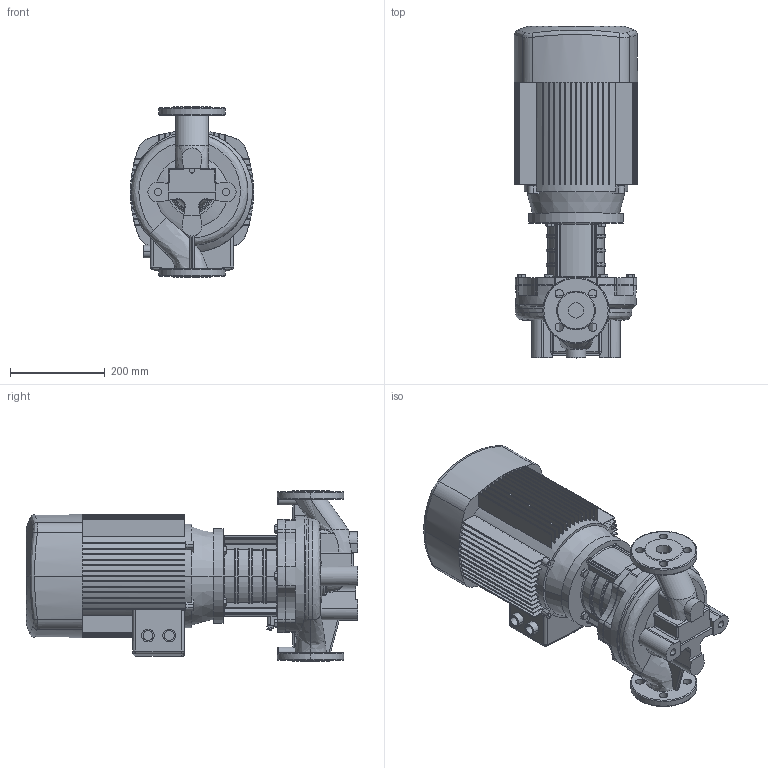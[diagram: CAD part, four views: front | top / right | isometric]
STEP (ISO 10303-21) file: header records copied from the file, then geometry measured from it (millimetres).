
FILE_DESCRIPTION (( 'STEP AP203' ), '1' );
FILE_NAME ('TD32-50G／2.STEP', '2026-09-07T01:49:31', ( '' ), ( '' ), 'SwSTEP 2.0', 'SolidWorks 2020', '' );
FILE_SCHEMA (( 'CONFIG_CONTROL_DESIGN' ));
Products named in the file (1): TD32-50Gㄞ2
Bounding box: 260 x 701 x 360 mm (x, y, z)
Volume: 27514002.1 mm3; surface area: 1360293 mm2
Topology: 1 solids, 14 shells, 1371 faces, 3548 edges, 2192 vertices
Faces by surface type: plane 656, cylinder 368, cone 123, torus 116, sphere 58, bspline 50
Entity records: 52858 total; most frequent: CARTESIAN_POINT 19681, ORIENTED_EDGE 7004, DIRECTION 6993, EDGE_CURVE 3502, AXIS2_PLACEMENT_3D 2639, VERTEX_POINT 2184, LINE 1715, VECTOR 1715
